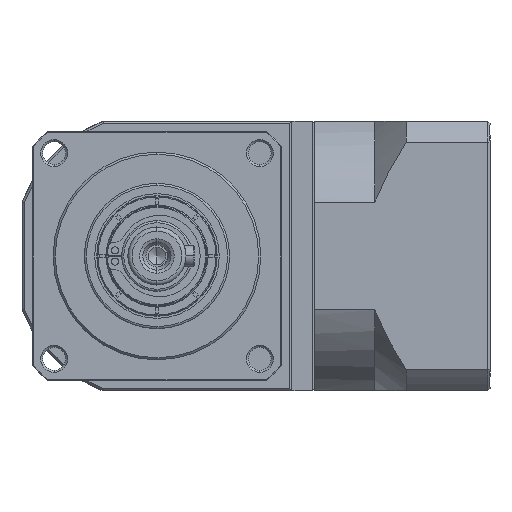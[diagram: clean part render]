
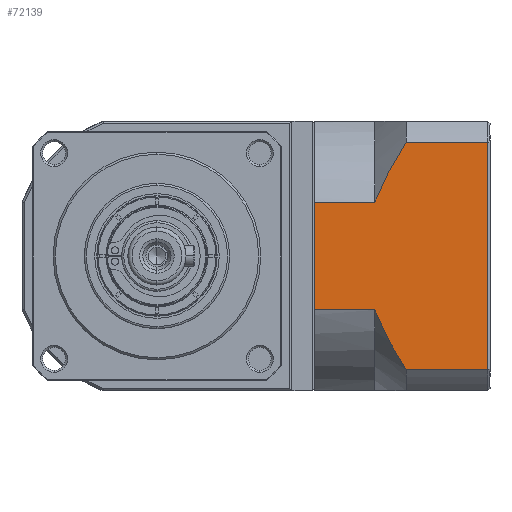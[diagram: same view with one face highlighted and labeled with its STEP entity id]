
A CAD part, left-side view. The second image highlights one B-rep face of the part: STEP entity #72139.
In plain terms, the highlighted planar face has unit normal (-1, 0, 0).
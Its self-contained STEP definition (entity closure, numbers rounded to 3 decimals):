
#805 = DIRECTION ( 'NONE',  ( 0., 1., 0. ) ) ;
#1472 = VECTOR ( 'NONE', #112686, 1000. ) ;
#2844 = EDGE_CURVE ( 'NONE', #93571, #92971, #133578, .T. ) ;
#3683 = LINE ( 'NONE', #160643, #160679 ) ;
#4001 = VECTOR ( 'NONE', #155880, 1000. ) ;
#4413 = CARTESIAN_POINT ( 'NONE',  ( -22.541, -107.512, -84.132 ) ) ;
#5189 = CARTESIAN_POINT ( 'NONE',  ( -22.541, -102.886, -128.391 ) ) ;
#9232 = VECTOR ( 'NONE', #107232, 1000. ) ;
#11162 = CARTESIAN_POINT ( 'NONE',  ( -22.541, -100.746, -123.37 ) ) ;
#12124 = CARTESIAN_POINT ( 'NONE',  ( -22.541, -100.746, -97.39 ) ) ;
#17625 = CARTESIAN_POINT ( 'NONE',  ( -22.541, -105.396, -133.184 ) ) ;
#19312 = VECTOR ( 'NONE', #159899, 1000. ) ;
#22771 = CARTESIAN_POINT ( 'NONE',  ( -22.541, -127.946, -142.88 ) ) ;
#23286 = CARTESIAN_POINT ( 'NONE',  ( -22.541, -127.946, -82.994 ) ) ;
#26316 = FACE_OUTER_BOUND ( 'NONE', #125542, .T. ) ;
#28031 = CARTESIAN_POINT ( 'NONE',  ( -22.541, -127.946, -137.766 ) ) ;
#29018 = CARTESIAN_POINT ( 'NONE',  ( -22.541, -100.984, -124.013 ) ) ;
#30095 = CARTESIAN_POINT ( 'NONE',  ( -22.541, -108.246, -137.766 ) ) ;
#31735 = CARTESIAN_POINT ( 'NONE',  ( -22.541, -100.746, -97.39 ) ) ;
#36281 = VECTOR ( 'NONE', #138703, 1000. ) ;
#36942 = LINE ( 'NONE', #31735, #4001 ) ;
#40198 = B_SPLINE_CURVE_WITH_KNOTS ( 'NONE', 3,
 ( #116430, #4413, #91430, #41794, #128802, #54378, #141111, #66942 ),
 .UNSPECIFIED., .F., .F.,
 ( 4, 2, 2, 4 ),
 ( 0.058, 0.062, 0.066, 0.074 ),
 .UNSPECIFIED. ) ;
#41794 = CARTESIAN_POINT ( 'NONE',  ( -22.541, -105.413, -87.618 ) ) ;
#46133 = LINE ( 'NONE', #47333, #9232 ) ;
#47333 = CARTESIAN_POINT ( 'NONE',  ( -22.541, -100.746, -82.994 ) ) ;
#51947 = LINE ( 'NONE', #113925, #36281 ) ;
#52466 = LINE ( 'NONE', #22771, #19312 ) ;
#54378 = CARTESIAN_POINT ( 'NONE',  ( -22.541, -102.832, -92.4 ) ) ;
#54651 = CARTESIAN_POINT ( 'NONE',  ( -22.541, -100.746, -123.37 ) ) ;
#59876 = CARTESIAN_POINT ( 'NONE',  ( -22.541, -108.246, -137.766 ) ) ;
#62206 = DIRECTION ( 'NONE',  ( 0., 1., 0. ) ) ;
#66942 = CARTESIAN_POINT ( 'NONE',  ( -22.541, -100.746, -97.39 ) ) ;
#67208 = CARTESIAN_POINT ( 'NONE',  ( -22.541, -101.237, -124.652 ) ) ;
#72139 = ADVANCED_FACE ( 'NONE', ( #26316 ), #99696, .F. ) ;
#75312 = DIRECTION ( 'NONE',  ( 1., 0., 0. ) ) ;
#79248 = CARTESIAN_POINT ( 'NONE',  ( -22.541, -108.246, -82.994 ) ) ;
#79732 = CARTESIAN_POINT ( 'NONE',  ( -22.541, -102.036, -126.537 ) ) ;
#81270 = ORIENTED_EDGE ( 'NONE', *, *, #2844, .F. ) ;
#81882 = ORIENTED_EDGE ( 'NONE', *, *, #83046, .T. ) ;
#83046 = EDGE_CURVE ( 'NONE', #93571, #108254, #52466, .T. ) ;
#83471 = CARTESIAN_POINT ( 'NONE',  ( -22.541, -86.246, -123.37 ) ) ;
#89746 = ORIENTED_EDGE ( 'NONE', *, *, #156159, .F. ) ;
#91430 = CARTESIAN_POINT ( 'NONE',  ( -22.541, -106.797, -85.283 ) ) ;
#92207 = CARTESIAN_POINT ( 'NONE',  ( -22.541, -103.492, -129.603 ) ) ;
#92971 = VERTEX_POINT ( 'NONE', #59876 ) ;
#93093 = ORIENTED_EDGE ( 'NONE', *, *, #144662, .T. ) ;
#93571 = VERTEX_POINT ( 'NONE', #28031 ) ;
#94287 = ORIENTED_EDGE ( 'NONE', *, *, #114715, .F. ) ;
#96815 = EDGE_CURVE ( 'NONE', #124033, #120732, #51947, .T. ) ;
#97767 = ORIENTED_EDGE ( 'NONE', *, *, #96815, .T. ) ;
#98682 = ORIENTED_EDGE ( 'NONE', *, *, #101603, .F. ) ;
#99696 = PLANE ( 'NONE',  #125565 ) ;
#100406 = EDGE_CURVE ( 'NONE', #117157, #92971, #138030, .T. ) ;
#101603 = EDGE_CURVE ( 'NONE', #117157, #120732, #3683, .T. ) ;
#104719 = CARTESIAN_POINT ( 'NONE',  ( -22.541, -106.784, -135.498 ) ) ;
#105701 = ORIENTED_EDGE ( 'NONE', *, *, #100406, .T. ) ;
#107232 = DIRECTION ( 'NONE',  ( 0., -1., 0. ) ) ;
#108254 = VERTEX_POINT ( 'NONE', #23286 ) ;
#112326 = CARTESIAN_POINT ( 'NONE',  ( -22.541, -100.746, -137.766 ) ) ;
#112686 = DIRECTION ( 'NONE',  ( 0., 1., 0. ) ) ;
#113925 = CARTESIAN_POINT ( 'NONE',  ( -22.541, -86.246, -142.88 ) ) ;
#114715 = EDGE_CURVE ( 'NONE', #124033, #152961, #36942, .T. ) ;
#116430 = CARTESIAN_POINT ( 'NONE',  ( -22.541, -108.246, -82.994 ) ) ;
#117157 = VERTEX_POINT ( 'NONE', #11162 ) ;
#120732 = VERTEX_POINT ( 'NONE', #83471 ) ;
#124033 = VERTEX_POINT ( 'NONE', #148994 ) ;
#125542 = EDGE_LOOP ( 'NONE', ( #81270, #81882, #89746, #93093, #94287, #97767, #98682, #105701 ) ) ;
#125565 = AXIS2_PLACEMENT_3D ( 'NONE', #149407, #75312, #805 ) ;
#128802 = CARTESIAN_POINT ( 'NONE',  ( -22.541, -104.743, -88.804 ) ) ;
#133578 = LINE ( 'NONE', #112326, #1472 ) ;
#138030 = B_SPLINE_CURVE_WITH_KNOTS ( 'NONE', 3,
 ( #54651, #29018, #67208, #153754, #79732, #5189, #92207, #17625, #104719, #30095 ),
 .UNSPECIFIED., .F., .F.,
 ( 4, 2, 2, 2, 4 ),
 ( 0.101, 0.103, 0.105, 0.109, 0.117 ),
 .UNSPECIFIED. ) ;
#138703 = DIRECTION ( 'NONE',  ( 0., 0., -1. ) ) ;
#141111 = CARTESIAN_POINT ( 'NONE',  ( -22.541, -101.688, -94.852 ) ) ;
#144662 = EDGE_CURVE ( 'NONE', #158779, #152961, #40198, .T. ) ;
#148994 = CARTESIAN_POINT ( 'NONE',  ( -22.541, -86.246, -97.39 ) ) ;
#149407 = CARTESIAN_POINT ( 'NONE',  ( -22.541, -128.446, -142.88 ) ) ;
#152961 = VERTEX_POINT ( 'NONE', #12124 ) ;
#153754 = CARTESIAN_POINT ( 'NONE',  ( -22.541, -101.762, -125.913 ) ) ;
#155880 = DIRECTION ( 'NONE',  ( 0., -1., 0. ) ) ;
#156159 = EDGE_CURVE ( 'NONE', #158779, #108254, #46133, .T. ) ;
#158779 = VERTEX_POINT ( 'NONE', #79248 ) ;
#159899 = DIRECTION ( 'NONE',  ( 0., 0., 1. ) ) ;
#160643 = CARTESIAN_POINT ( 'NONE',  ( -22.541, -100.746, -123.37 ) ) ;
#160679 = VECTOR ( 'NONE', #62206, 1000. ) ;
